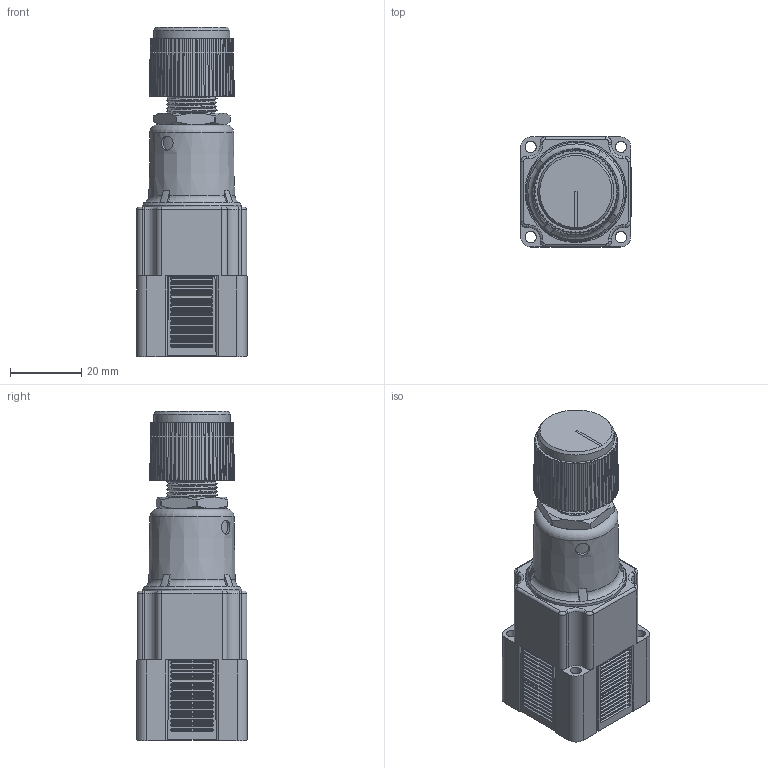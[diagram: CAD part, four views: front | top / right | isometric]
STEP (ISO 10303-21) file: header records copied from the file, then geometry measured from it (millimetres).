
FILE_DESCRIPTION(/* description */ (''),/* implementation_level */ '2;1');
FILE_NAME(/* name */ 'K:\Normteile INVENTOR\Air-Logic\Regulators\NR4000\NR 4___ B Blank Dovetail.igs.ipt.stp',/* time_stamp */ '2020-05-27T10:51:37+02:00',/* author */ ('Paul'),/* organization */ (''),/* preprocessor_version */ 'ST-DEVELOPER v18',/* originating_system */ 'Autodesk Inventor 2020',/* authorisation */ '');
FILE_SCHEMA (('AUTOMOTIVE_DESIGN { 1 0 10303 214 3 1 1 }'));
Length unit declared in the file: inch
Products named in the file (1): NR 4___ B Blank Dovetail.igs
Bounding box: 31.06 x 31.19 x 92.65 mm (x, y, z)
Volume: 54939.3 mm3; surface area: 17805.5 mm2
Topology: 1 solids, 1 shells, 954 faces, 2443 edges, 1558 vertices
Faces by surface type: plane 476, cylinder 355, cone 81, bspline 23, torus 19
Full cylindrical faces by diameter (mm): 3.175 x4, 3.988 x1, 4.039 x1, 4.064 x1, 14.288 x2, 19.406 x1, 21.476 x1, 26.264 x1, 27.94 x1, 27.991 x1, 28.575 x1
Entity records: 37581 total; most frequent: CARTESIAN_POINT 12773, DIRECTION 5260, ORIENTED_EDGE 4886, EDGE_CURVE 2443, AXIS2_PLACEMENT_3D 2050, VERTEX_POINT 1558, LINE 1160, VECTOR 1160
